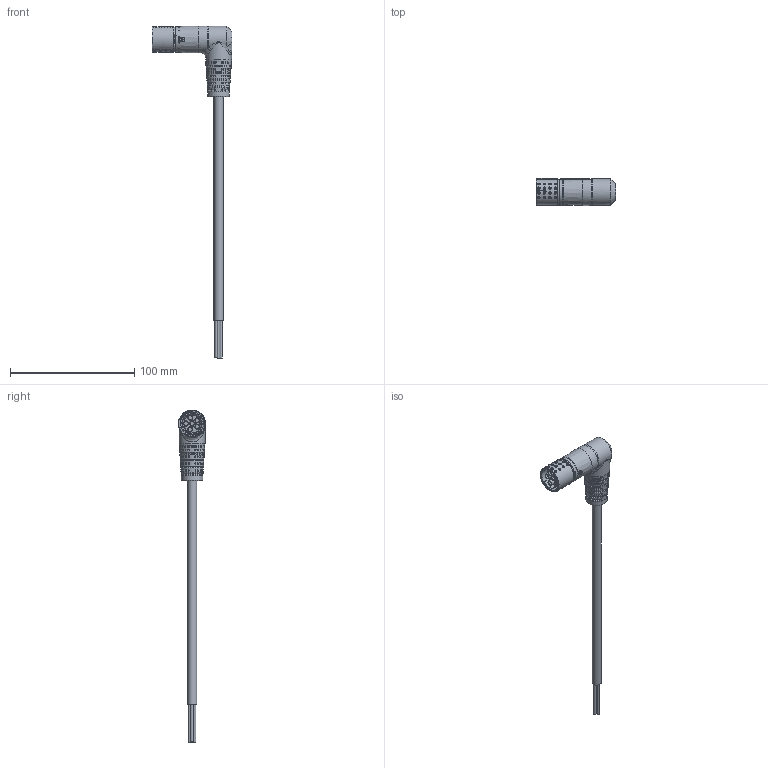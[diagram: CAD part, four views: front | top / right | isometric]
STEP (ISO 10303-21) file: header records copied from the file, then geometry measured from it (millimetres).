
FILE_DESCRIPTION (( 'STEP AP203' ), '1' );
FILE_NAME ('1138003_W-TEC_15K_GLATT-BU-90°R_STEP.STEP', '2023-09-01T05:20:05', ( '' ), ( '' ), 'SwSTEP 2.0', 'SolidWorks 2021', '' );
FILE_SCHEMA (( 'CONFIG_CONTROL_DESIGN' ));
Length unit declared in the file: millimetre
Products named in the file (1): 1138003_W-TEC_15K_GLATT-BU-90訌_STEP
Bounding box: 63.92 x 21.83 x 267.72 mm (x, y, z)
Surface area: 15874.1 mm2 (no closed solid volume)
Topology: 0 solids, 21 shells, 532 faces, 2061 edges, 1461 vertices
Faces by surface type: bspline 256, plane 146, cylinder 101, cone 26, torus 3
Full cylindrical faces by diameter (mm): 2 x3, 3.3 x6, 4 x1, 4.2 x3, 7.4 x1, 11.1 x1, 17.397 x1, 18.4 x1, 21.038 x1, 21.72 x1
Entity records: 40646 total; most frequent: CARTESIAN_POINT 27264, ORIENTED_EDGE 3000, EDGE_CURVE 1948, DIRECTION 1781, VERTEX_POINT 1432, B_SPLINE_CURVE_WITH_KNOTS 994, EDGE_LOOP 650, AXIS2_PLACEMENT_3D 642
